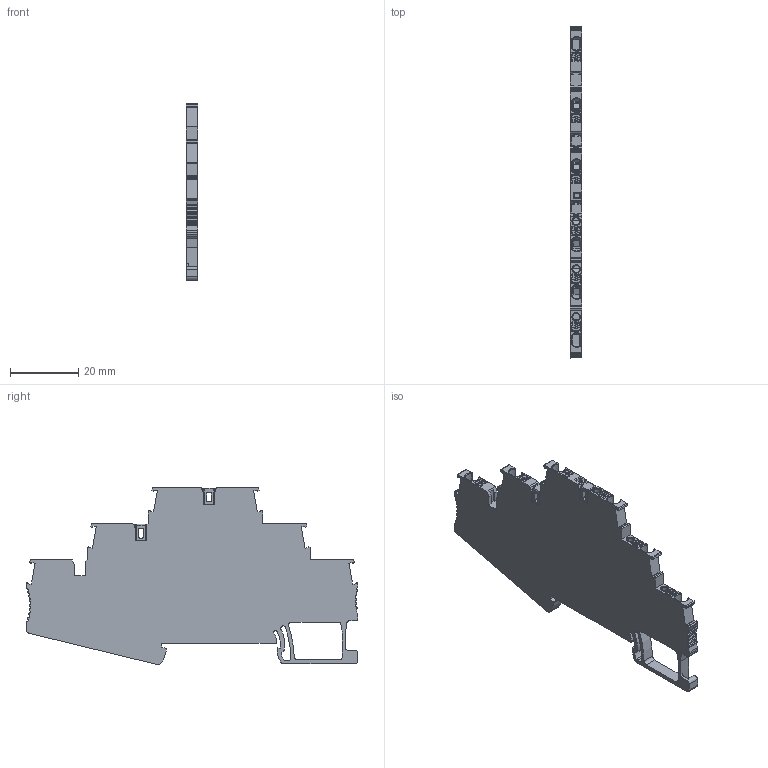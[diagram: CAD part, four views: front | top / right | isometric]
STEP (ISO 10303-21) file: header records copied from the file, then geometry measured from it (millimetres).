
FILE_DESCRIPTION((''),'2;1');
FILE_NAME('UPT-1_5-3L_ASSY','2024-03-29T16:16:06',('Administrator'),(''),'CREO PARAMETRIC BY PTC INC, 2018050','CREO PARAMETRIC BY PTC INC, 2018050','');
FILE_SCHEMA(('CONFIG_CONTROL_DESIGN'));
Products named in the file (1): UPT-1_5-3L_ASSY
Bounding box: 3.5 x 97.25 x 51.87 mm (x, y, z)
Volume: 10924.4 mm3; surface area: 9810 mm2
Topology: 1 solids, 2 shells, 1843 faces, 4974 edges, 3067 vertices
Faces by surface type: plane 821, cylinder 700, sphere 106, torus 92, cone 71, extrusion 35, bspline 18
Entity records: 61674 total; most frequent: CARTESIAN_POINT 15621, ORIENTED_EDGE 9776, DIRECTION 9565, EDGE_CURVE 4888, AXIS2_PLACEMENT_3D 3251, VERTEX_POINT 3067, VECTOR 3063, LINE 3028
